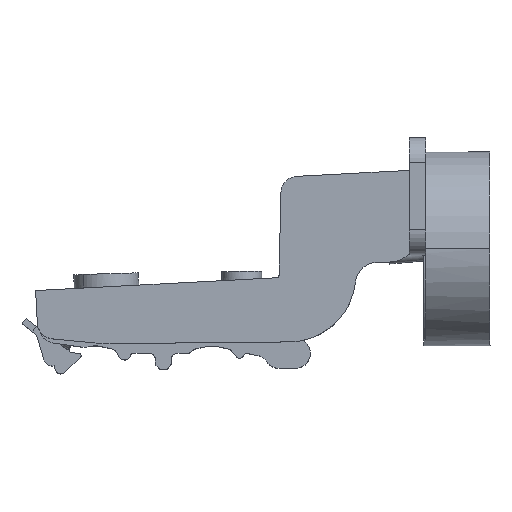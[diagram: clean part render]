
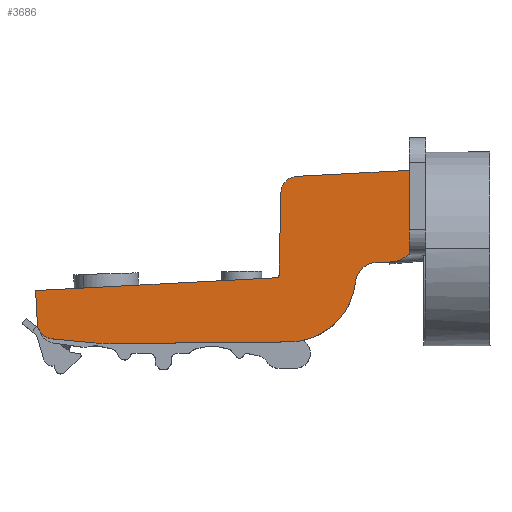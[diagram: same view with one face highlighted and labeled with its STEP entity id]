
A CAD part, top view. The second image highlights one B-rep face of the part: STEP entity #3686.
In plain terms, the highlighted planar face has unit normal (0, 0, 1).
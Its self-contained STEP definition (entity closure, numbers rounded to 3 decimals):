
#158 = VECTOR ( 'NONE', #5758, 1000. ) ;
#162 = CARTESIAN_POINT ( 'NONE',  ( -18.623, 0.056, 8.5 ) ) ;
#198 = DIRECTION ( 'NONE',  ( 0., 0., -1. ) ) ;
#346 = ORIENTED_EDGE ( 'NONE', *, *, #2161, .F. ) ;
#391 = EDGE_CURVE ( 'NONE', #1865, #5022, #533, .T. ) ;
#407 = CARTESIAN_POINT ( 'NONE',  ( -18.123, 0.045, 8.5 ) ) ;
#475 = CARTESIAN_POINT ( 'NONE',  ( 12.935, 2.494, 8.5 ) ) ;
#511 = DIRECTION ( 'NONE',  ( 1., 0.01, 0. ) ) ;
#533 = LINE ( 'NONE', #3978, #3457 ) ;
#556 = DIRECTION ( 'NONE',  ( 1., 0., 0. ) ) ;
#559 = VERTEX_POINT ( 'NONE', #6172 ) ;
#634 = ORIENTED_EDGE ( 'NONE', *, *, #709, .F. ) ;
#703 = CARTESIAN_POINT ( 'NONE',  ( -0.431, -1.634, 8.5 ) ) ;
#709 = EDGE_CURVE ( 'NONE', #5768, #4936, #6342, .T. ) ;
#827 = LINE ( 'NONE', #5366, #5942 ) ;
#902 = VECTOR ( 'NONE', #3915, 1000. ) ;
#936 = DIRECTION ( 'NONE',  ( -0.024, -1., 0. ) ) ;
#1079 = DIRECTION ( 'NONE',  ( 1., 0.01, 0. ) ) ;
#1197 = PLANE ( 'NONE',  #1944 ) ;
#1215 = DIRECTION ( 'NONE',  ( -0.999, -0.053, 0. ) ) ;
#1220 = ORIENTED_EDGE ( 'NONE', *, *, #391, .F. ) ;
#1334 = DIRECTION ( 'NONE',  ( 0., 0., 1. ) ) ;
#1377 = AXIS2_PLACEMENT_3D ( 'NONE', #4635, #2021, #1521 ) ;
#1391 = DIRECTION ( 'NONE',  ( -0.023, -1., 0. ) ) ;
#1415 = LINE ( 'NONE', #4431, #3839 ) ;
#1426 = CARTESIAN_POINT ( 'NONE',  ( -14.783, 14.764, 8.5 ) ) ;
#1521 = DIRECTION ( 'NONE',  ( 1., 0.01, 0. ) ) ;
#1655 = CARTESIAN_POINT ( 'NONE',  ( 1.833, 6.888, 8.5 ) ) ;
#1751 = DIRECTION ( 'NONE',  ( 1., 0., 0. ) ) ;
#1781 = ORIENTED_EDGE ( 'NONE', *, *, #4720, .T. ) ;
#1795 = ORIENTED_EDGE ( 'NONE', *, *, #2201, .F. ) ;
#1847 = ORIENTED_EDGE ( 'NONE', *, *, #5271, .F. ) ;
#1865 = VERTEX_POINT ( 'NONE', #4254 ) ;
#1944 = AXIS2_PLACEMENT_3D ( 'NONE', #4757, #1334, #4887 ) ;
#1977 = DIRECTION ( 'NONE',  ( 0., 0., -1. ) ) ;
#2017 = CIRCLE ( 'NONE', #5839, 0.5 ) ;
#2021 = DIRECTION ( 'NONE',  ( 0., 0., -1. ) ) ;
#2087 = ORIENTED_EDGE ( 'NONE', *, *, #5280, .F. ) ;
#2161 = EDGE_CURVE ( 'NONE', #3163, #559, #827, .T. ) ;
#2201 = EDGE_CURVE ( 'NONE', #5022, #3163, #5294, .T. ) ;
#2212 = LINE ( 'NONE', #4342, #6560 ) ;
#2232 = EDGE_CURVE ( 'NONE', #3752, #3488, #6041, .T. ) ;
#2249 = VERTEX_POINT ( 'NONE', #2567 ) ;
#2277 = CIRCLE ( 'NONE', #2793, 12. ) ;
#2322 = EDGE_CURVE ( 'NONE', #2791, #3055, #2017, .T. ) ;
#2340 = DIRECTION ( 'NONE',  ( 0., 0., 1. ) ) ;
#2374 = LINE ( 'NONE', #2936, #4598 ) ;
#2418 = VERTEX_POINT ( 'NONE', #5290 ) ;
#2474 = LINE ( 'NONE', #475, #902 ) ;
#2502 = CARTESIAN_POINT ( 'NONE',  ( -18.596, -0.443, 8.5 ) ) ;
#2567 = CARTESIAN_POINT ( 'NONE',  ( -17.783, 14.833, 8.5 ) ) ;
#2598 = EDGE_CURVE ( 'NONE', #6391, #5011, #5945, .T. ) ;
#2716 = DIRECTION ( 'NONE',  ( 0., 0., -1. ) ) ;
#2791 = VERTEX_POINT ( 'NONE', #5989 ) ;
#2793 = AXIS2_PLACEMENT_3D ( 'NONE', #6532, #1977, #6025 ) ;
#2797 = ORIENTED_EDGE ( 'NONE', *, *, #6264, .T. ) ;
#2866 = DIRECTION ( 'NONE',  ( -0.053, 0.999, 0. ) ) ;
#2936 = CARTESIAN_POINT ( 'NONE',  ( -17.783, 14.833, 8.5 ) ) ;
#3055 = VERTEX_POINT ( 'NONE', #2502 ) ;
#3152 = CARTESIAN_POINT ( 'NONE',  ( -61.494, -8.784, 8.5 ) ) ;
#3163 = VERTEX_POINT ( 'NONE', #4734 ) ;
#3170 = AXIS2_PLACEMENT_3D ( 'NONE', #1655, #6070, #1079 ) ;
#3367 = EDGE_CURVE ( 'NONE', #2418, #3752, #1415, .T. ) ;
#3388 = CARTESIAN_POINT ( 'NONE',  ( 5.231, 3.937, 8.5 ) ) ;
#3457 = VECTOR ( 'NONE', #5976, 1000. ) ;
#3488 = VERTEX_POINT ( 'NONE', #6125 ) ;
#3493 = CARTESIAN_POINT ( 'NONE',  ( -0.47, 2.366, 8.5 ) ) ;
#3554 = ORIENTED_EDGE ( 'NONE', *, *, #2598, .T. ) ;
#3627 = ORIENTED_EDGE ( 'NONE', *, *, #2322, .T. ) ;
#3651 = ORIENTED_EDGE ( 'NONE', *, *, #4560, .T. ) ;
#3663 = CARTESIAN_POINT ( 'NONE',  ( -21.854, -0.616, 8.5 ) ) ;
#3686 = ADVANCED_FACE ( 'NONE', ( #5888 ), #1197, .T. ) ;
#3725 = LINE ( 'NONE', #3663, #158 ) ;
#3752 = VERTEX_POINT ( 'NONE', #3388 ) ;
#3839 = VECTOR ( 'NONE', #5523, 1000. ) ;
#3869 = AXIS2_PLACEMENT_3D ( 'NONE', #5985, #5041, #511 ) ;
#3915 = DIRECTION ( 'NONE',  ( -1., -0.01, 0. ) ) ;
#3978 = CARTESIAN_POINT ( 'NONE',  ( -16.229, -11.955, 8.5 ) ) ;
#3992 = CARTESIAN_POINT ( 'NONE',  ( -18.123, 0.045, 8.5 ) ) ;
#4009 = ORIENTED_EDGE ( 'NONE', *, *, #5026, .F. ) ;
#4083 = CIRCLE ( 'NONE', #3869, 3. ) ;
#4113 = VERTEX_POINT ( 'NONE', #407 ) ;
#4149 = CARTESIAN_POINT ( 'NONE',  ( -14.943, 17.76, 8.5 ) ) ;
#4170 = AXIS2_PLACEMENT_3D ( 'NONE', #1426, #2340, #556 ) ;
#4254 = CARTESIAN_POINT ( 'NONE',  ( -16.229, -11.955, 8.5 ) ) ;
#4342 = CARTESIAN_POINT ( 'NONE',  ( -0.462, 18.53, 8.5 ) ) ;
#4431 = CARTESIAN_POINT ( 'NONE',  ( 5.234, -2.026, 8.5 ) ) ;
#4455 = AXIS2_PLACEMENT_3D ( 'NONE', #703, #2716, #4756 ) ;
#4490 = CARTESIAN_POINT ( 'NONE',  ( -48.227, -12.26, 8.5 ) ) ;
#4513 = EDGE_CURVE ( 'NONE', #5119, #2249, #5668, .T. ) ;
#4522 = VECTOR ( 'NONE', #2866, 1000. ) ;
#4560 = EDGE_CURVE ( 'NONE', #2249, #4113, #2374, .T. ) ;
#4598 = VECTOR ( 'NONE', #1391, 1000. ) ;
#4635 = CARTESIAN_POINT ( 'NONE',  ( -48.513, 17.739, 8.5 ) ) ;
#4720 = EDGE_CURVE ( 'NONE', #3055, #4936, #3725, .T. ) ;
#4734 = CARTESIAN_POINT ( 'NONE',  ( -51.365, -12.125, 8.5 ) ) ;
#4755 = ORIENTED_EDGE ( 'NONE', *, *, #4513, .T. ) ;
#4756 = DIRECTION ( 'NONE',  ( -1., -0.01, 0. ) ) ;
#4757 = CARTESIAN_POINT ( 'NONE',  ( 13.877, -2.021, 8.5 ) ) ;
#4887 = DIRECTION ( 'NONE',  ( 1., 0.01, 0. ) ) ;
#4936 = VERTEX_POINT ( 'NONE', #6462 ) ;
#4969 = CARTESIAN_POINT ( 'NONE',  ( -4.409, -1.214, 8.5 ) ) ;
#4985 = EDGE_CURVE ( 'NONE', #4113, #2791, #5483, .T. ) ;
#5011 = VERTEX_POINT ( 'NONE', #3493 ) ;
#5022 = VERTEX_POINT ( 'NONE', #4490 ) ;
#5026 = EDGE_CURVE ( 'NONE', #6391, #1865, #2277, .T. ) ;
#5041 = DIRECTION ( 'NONE',  ( 0., 0., -1. ) ) ;
#5066 = EDGE_LOOP ( 'NONE', ( #5352, #2797, #4755, #3651, #5588, #3627, #1781, #634, #2087, #346, #1795, #1220, #4009, #3554, #1847, #6226 ) ) ;
#5119 = VERTEX_POINT ( 'NONE', #4149 ) ;
#5134 = VECTOR ( 'NONE', #936, 1000. ) ;
#5271 = EDGE_CURVE ( 'NONE', #3488, #5011, #2474, .T. ) ;
#5280 = EDGE_CURVE ( 'NONE', #559, #5768, #4083, .T. ) ;
#5290 = CARTESIAN_POINT ( 'NONE',  ( 5.223, 18.833, 8.5 ) ) ;
#5294 = CIRCLE ( 'NONE', #1377, 30. ) ;
#5352 = ORIENTED_EDGE ( 'NONE', *, *, #3367, .F. ) ;
#5366 = CARTESIAN_POINT ( 'NONE',  ( -51.365, -12.125, 8.5 ) ) ;
#5389 = CARTESIAN_POINT ( 'NONE',  ( -61.82, -2.663, 8.5 ) ) ;
#5483 = LINE ( 'NONE', #3992, #5134 ) ;
#5523 = DIRECTION ( 'NONE',  ( 0.001, -1., 0. ) ) ;
#5588 = ORIENTED_EDGE ( 'NONE', *, *, #4985, .T. ) ;
#5668 = CIRCLE ( 'NONE', #4170, 3. ) ;
#5758 = DIRECTION ( 'NONE',  ( -0.999, -0.053, 0. ) ) ;
#5768 = VERTEX_POINT ( 'NONE', #3152 ) ;
#5839 = AXIS2_PLACEMENT_3D ( 'NONE', #162, #198, #1751 ) ;
#5888 = FACE_OUTER_BOUND ( 'NONE', #5066, .T. ) ;
#5942 = VECTOR ( 'NONE', #6316, 1000. ) ;
#5945 = CIRCLE ( 'NONE', #4455, 4. ) ;
#5976 = DIRECTION ( 'NONE',  ( -1., -0.01, 0. ) ) ;
#5985 = CARTESIAN_POINT ( 'NONE',  ( -58.515, -8.429, 8.5 ) ) ;
#5989 = CARTESIAN_POINT ( 'NONE',  ( -18.123, 0.044, 8.5 ) ) ;
#6025 = DIRECTION ( 'NONE',  ( 1., 0.01, 0. ) ) ;
#6041 = CIRCLE ( 'NONE', #3170, 4.5 ) ;
#6070 = DIRECTION ( 'NONE',  ( 0., 0., -1. ) ) ;
#6125 = CARTESIAN_POINT ( 'NONE',  ( 1.876, 2.388, 8.5 ) ) ;
#6172 = CARTESIAN_POINT ( 'NONE',  ( -58.8, -11.415, 8.5 ) ) ;
#6226 = ORIENTED_EDGE ( 'NONE', *, *, #2232, .F. ) ;
#6264 = EDGE_CURVE ( 'NONE', #2418, #5119, #2212, .T. ) ;
#6316 = DIRECTION ( 'NONE',  ( -0.995, 0.095, 0. ) ) ;
#6342 = LINE ( 'NONE', #5389, #4522 ) ;
#6391 = VERTEX_POINT ( 'NONE', #4969 ) ;
#6462 = CARTESIAN_POINT ( 'NONE',  ( -61.815, -2.742, 8.5 ) ) ;
#6532 = CARTESIAN_POINT ( 'NONE',  ( -16.343, 0.045, 8.5 ) ) ;
#6560 = VECTOR ( 'NONE', #1215, 1000. ) ;
